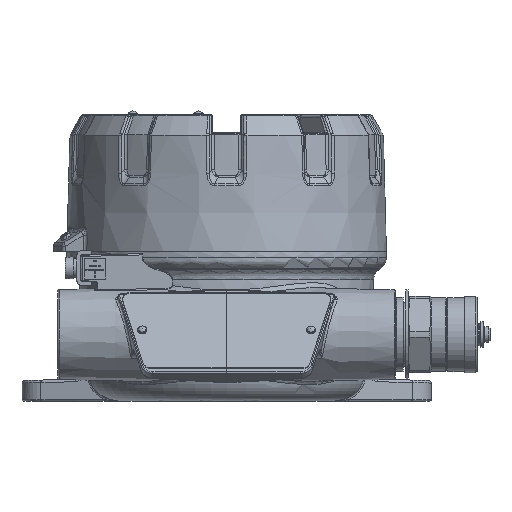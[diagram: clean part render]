
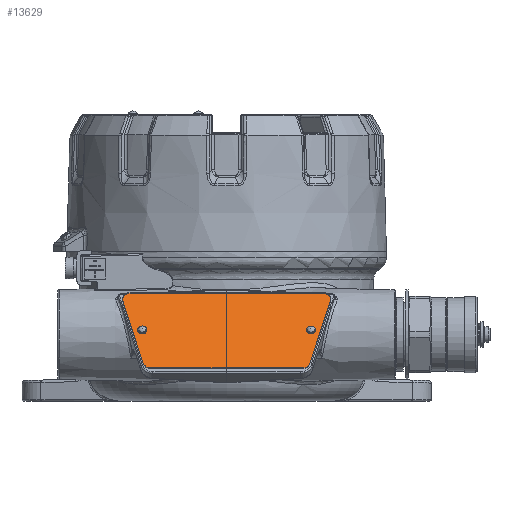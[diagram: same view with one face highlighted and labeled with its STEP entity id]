
A CAD part, front view. The second image highlights one B-rep face of the part: STEP entity #13629.
In plain terms, the highlighted planar face has unit normal (0, -0.819, 0.574).
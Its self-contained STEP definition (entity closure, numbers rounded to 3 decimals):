
#13629=ADVANCED_FACE('',(#60479,#60481,#60483),#60485,.T.);
#60479=FACE_BOUND('',#60480,.T.);
#60480=EDGE_LOOP('',(#69198,#69199,#69200,#69201,#69202,#69203,#69204,#69205));
#60481=FACE_BOUND('',#60482,.T.);
#60482=EDGE_LOOP('',(#69206));
#60483=FACE_BOUND('',#60484,.T.);
#60484=EDGE_LOOP('',(#69207));
#60485=PLANE('',#60486);
#60486=AXIS2_PLACEMENT_3D('',#60487,#60488,#60489);
#60487=CARTESIAN_POINT('',(0.,-72.568,27.683));
#60488=DIRECTION('',(0.,-0.819,0.574));
#60489=DIRECTION('',(-1.,0.,0.));
#69198=ORIENTED_EDGE('',*,*,#73276,.T.);
#69199=ORIENTED_EDGE('',*,*,#73277,.T.);
#69200=ORIENTED_EDGE('',*,*,#73278,.T.);
#69201=ORIENTED_EDGE('',*,*,#73279,.T.);
#69202=ORIENTED_EDGE('',*,*,#73280,.T.);
#69203=ORIENTED_EDGE('',*,*,#73281,.T.);
#69204=ORIENTED_EDGE('',*,*,#73282,.T.);
#69205=ORIENTED_EDGE('',*,*,#73283,.T.);
#69206=ORIENTED_EDGE('',*,*,#73284,.T.);
#69207=ORIENTED_EDGE('',*,*,#73285,.T.);
#73276=EDGE_CURVE('',#79327,#79328,#79329,.T.);
#73277=EDGE_CURVE('',#79328,#79330,#79331,.T.);
#73278=EDGE_CURVE('',#79330,#79332,#79333,.T.);
#73279=EDGE_CURVE('',#79332,#79334,#79335,.T.);
#73280=EDGE_CURVE('',#79334,#79336,#79337,.T.);
#73281=EDGE_CURVE('',#79336,#79338,#79339,.T.);
#73282=EDGE_CURVE('',#79338,#79340,#79341,.T.);
#73283=EDGE_CURVE('',#79340,#79327,#79342,.T.);
#73284=EDGE_CURVE('',#79343,#79343,#79344,.F.);
#73285=EDGE_CURVE('',#79345,#79345,#79346,.F.);
#79327=VERTEX_POINT('',#118313);
#79328=VERTEX_POINT('',#118314);
#79329=LINE('',#118315,#118316);
#79330=VERTEX_POINT('',#118318);
#79331=CIRCLE('',#118319,3.);
#79332=VERTEX_POINT('',#118323);
#79333=LINE('',#118324,#118325);
#79334=VERTEX_POINT('',#118327);
#79335=CIRCLE('',#118328,3.);
#79336=VERTEX_POINT('',#118332);
#79337=LINE('',#118333,#118334);
#79338=VERTEX_POINT('',#118336);
#79339=CIRCLE('',#118337,3.);
#79340=VERTEX_POINT('',#118341);
#79341=LINE('',#118342,#118343);
#79342=CIRCLE('',#118345,3.);
#79343=VERTEX_POINT('',#118349);
#79344=CIRCLE('',#118350,1.25);
#79345=VERTEX_POINT('',#118354);
#79346=CIRCLE('',#118355,1.25);
#118313=CARTESIAN_POINT('',(32.596,-81.617,14.76));
#118314=CARTESIAN_POINT('',(40.634,-64.41,39.334));
#118315=CARTESIAN_POINT('',(32.596,-81.617,14.76));
#118316=VECTOR('',#118317,1.);
#118317=DIRECTION('',(0.259,0.554,0.791));
#118318=CARTESIAN_POINT('',(37.736,-62.244,42.428));
#118319=AXIS2_PLACEMENT_3D('',#118320,#118321,#118322);
#118320=CARTESIAN_POINT('',(37.736,-63.965,39.97));
#118321=DIRECTION('',(0.,-0.819,0.574));
#118322=DIRECTION('',(0.966,-0.148,-0.212));
#118323=CARTESIAN_POINT('',(-37.736,-62.244,42.428));
#118324=CARTESIAN_POINT('',(37.736,-62.244,42.428));
#118325=VECTOR('',#118326,1.);
#118326=DIRECTION('',(-1.,0.,0.));
#118327=CARTESIAN_POINT('',(-40.634,-64.41,39.334));
#118328=AXIS2_PLACEMENT_3D('',#118329,#118330,#118331);
#118329=CARTESIAN_POINT('',(-37.736,-63.965,39.97));
#118330=DIRECTION('',(0.,-0.819,0.574));
#118331=DIRECTION('',(0.,0.574,0.819));
#118332=CARTESIAN_POINT('',(-32.596,-81.617,14.76));
#118333=CARTESIAN_POINT('',(-40.634,-64.41,39.334));
#118334=VECTOR('',#118335,1.);
#118335=DIRECTION('',(0.259,-0.554,-0.791));
#118336=CARTESIAN_POINT('',(-29.698,-82.893,12.938));
#118337=AXIS2_PLACEMENT_3D('',#118338,#118339,#118340);
#118338=CARTESIAN_POINT('',(-29.698,-81.172,15.396));
#118339=DIRECTION('',(0.,-0.819,0.574));
#118340=DIRECTION('',(-0.966,-0.148,-0.212));
#118341=CARTESIAN_POINT('',(29.698,-82.893,12.938));
#118342=CARTESIAN_POINT('',(-29.698,-82.893,12.938));
#118343=VECTOR('',#118344,1.);
#118344=DIRECTION('',(1.,0.,0.));
#118345=AXIS2_PLACEMENT_3D('',#118346,#118347,#118348);
#118346=CARTESIAN_POINT('',(29.698,-81.172,15.396));
#118347=DIRECTION('',(0.,-0.819,0.574));
#118348=DIRECTION('',(0.,-0.574,-0.819));
#118349=CARTESIAN_POINT('',(31.75,-72.568,27.683));
#118350=AXIS2_PLACEMENT_3D('',#118351,#118352,#118353);
#118351=CARTESIAN_POINT('',(33.,-72.568,27.683));
#118352=DIRECTION('',(0.,-0.819,0.574));
#118353=DIRECTION('',(-1.,0.,0.));
#118354=CARTESIAN_POINT('',(-31.75,-72.568,27.683));
#118355=AXIS2_PLACEMENT_3D('',#118356,#118357,#118358);
#118356=CARTESIAN_POINT('',(-33.,-72.568,27.683));
#118357=DIRECTION('',(0.,-0.819,0.574));
#118358=DIRECTION('',(1.,0.,0.));
